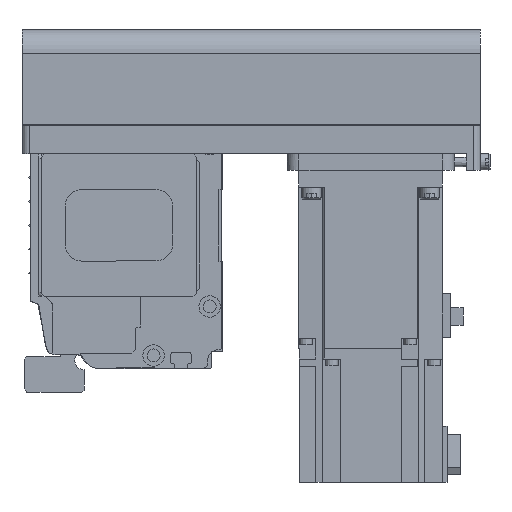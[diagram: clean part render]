
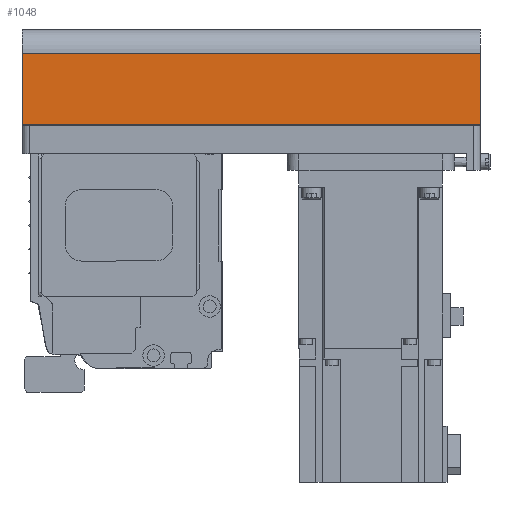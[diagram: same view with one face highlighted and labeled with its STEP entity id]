
A CAD part, left-side view. The second image highlights one B-rep face of the part: STEP entity #1048.
In plain terms, the highlighted planar face has unit normal (-1, 0, 0) as drawn and (0, -1, 0) by its records, which use the part's own axes.
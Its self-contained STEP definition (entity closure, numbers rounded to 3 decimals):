
#1048 = ADVANCED_FACE( '', ( #2723 ), #2724, .T. );
#2723 = FACE_OUTER_BOUND( '', #5283, .T. );
#2724 = PLANE( '', #5284 );
#5283 = EDGE_LOOP( '', ( #8148, #8149, #8150, #8151 ) );
#5284 = AXIS2_PLACEMENT_3D( '', #8152, #8153, #8154 );
#8148 = ORIENTED_EDGE( '', *, *, #14604, .F. );
#8149 = ORIENTED_EDGE( '', *, *, #14537, .F. );
#8150 = ORIENTED_EDGE( '', *, *, #14605, .T. );
#8151 = ORIENTED_EDGE( '', *, *, #14597, .T. );
#8152 = CARTESIAN_POINT( '', ( -192., -40., -12.1 ) );
#8153 = DIRECTION( '', ( 0., -1., 0. ) );
#8154 = DIRECTION( '', ( 0., 0., -1. ) );
#14537 = EDGE_CURVE( '', #17301, #17303, #17304, .T. );
#14597 = EDGE_CURVE( '', #17405, #17402, #17406, .T. );
#14604 = EDGE_CURVE( '', #17303, #17402, #17416, .T. );
#14605 = EDGE_CURVE( '', #17301, #17405, #17417, .T. );
#17301 = VERTEX_POINT( '', #21243 );
#17303 = VERTEX_POINT( '', #21246 );
#17304 = LINE( '', #21247, #21248 );
#17402 = VERTEX_POINT( '', #21382 );
#17405 = VERTEX_POINT( '', #21385 );
#17406 = LINE( '', #21386, #21387 );
#17416 = LINE( '', #21398, #21399 );
#17417 = LINE( '', #21400, #21401 );
#21243 = CARTESIAN_POINT( '', ( -192., -40., -12.1 ) );
#21246 = CARTESIAN_POINT( '', ( 0., -40., -12.1 ) );
#21247 = CARTESIAN_POINT( '', ( -192., -40., -12.1 ) );
#21248 = VECTOR( '', #25991, 1000. );
#21382 = CARTESIAN_POINT( '', ( 0., -40., -42. ) );
#21385 = CARTESIAN_POINT( '', ( -192., -40., -42. ) );
#21386 = CARTESIAN_POINT( '', ( -192., -40., -42. ) );
#21387 = VECTOR( '', #26058, 1000. );
#21398 = CARTESIAN_POINT( '', ( 0., -40., -12.1 ) );
#21399 = VECTOR( '', #26069, 1000. );
#21400 = CARTESIAN_POINT( '', ( -192., -40., -12.1 ) );
#21401 = VECTOR( '', #26070, 1000. );
#25991 = DIRECTION( '', ( 1., 0., 0. ) );
#26058 = DIRECTION( '', ( 1., 0., 0. ) );
#26069 = DIRECTION( '', ( 0., 0., -1. ) );
#26070 = DIRECTION( '', ( 0., 0., -1. ) );
